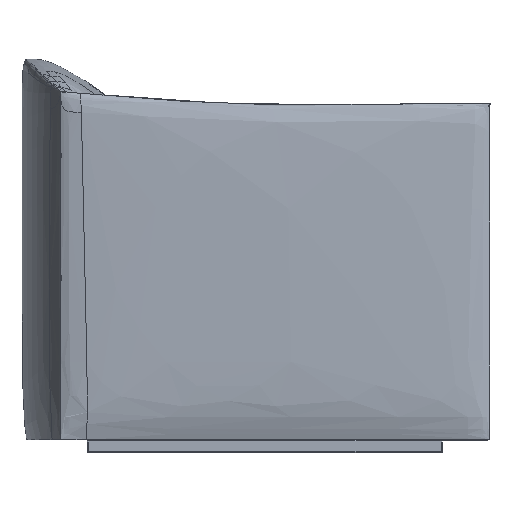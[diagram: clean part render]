
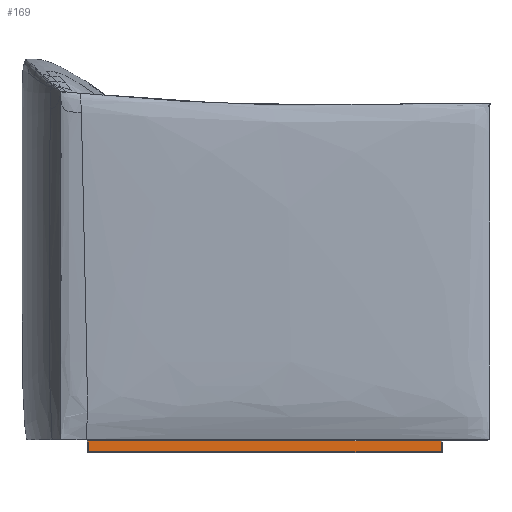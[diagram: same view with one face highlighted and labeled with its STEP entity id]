
A CAD part, left-side view. The second image highlights one B-rep face of the part: STEP entity #169.
In plain terms, the highlighted planar face has unit normal (-1, 0, 0).
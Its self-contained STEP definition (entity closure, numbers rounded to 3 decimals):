
#169=ADVANCED_FACE('',(#377),#3141,.T.);
#377=FACE_OUTER_BOUND('',#585,.T.);
#585=EDGE_LOOP('',(#811,#812,#813,#814));
#811=ORIENTED_EDGE('',*,*,#1799,.T.);
#812=ORIENTED_EDGE('',*,*,#1802,.F.);
#813=ORIENTED_EDGE('',*,*,#1801,.F.);
#814=ORIENTED_EDGE('',*,*,#1800,.T.);
#1799=EDGE_CURVE('',#2809,#2810,#2331,.T.);
#1800=EDGE_CURVE('',#2811,#2809,#2332,.T.);
#1801=EDGE_CURVE('',#2811,#2812,#2333,.T.);
#1802=EDGE_CURVE('',#2812,#2810,#2334,.T.);
#2331=B_SPLINE_CURVE_WITH_KNOTS('',1,(#3618,#3619),.UNSPECIFIED.,.F.,.F.,
(2,2),(2.,604.403),.UNSPECIFIED.);
#2332=B_SPLINE_CURVE_WITH_KNOTS('',1,(#3620,#3621),.UNSPECIFIED.,.F.,.F.,
(2,2),(2.,111.3),.UNSPECIFIED.);
#2333=B_SPLINE_CURVE_WITH_KNOTS('',1,(#3622,#3623),.UNSPECIFIED.,.F.,.F.,
(2,2),(2.,604.403),.UNSPECIFIED.);
#2334=B_SPLINE_CURVE_WITH_KNOTS('',1,(#3624,#3625),.UNSPECIFIED.,.F.,.F.,
(2,2),(2.,111.3),.UNSPECIFIED.);
#2809=VERTEX_POINT('',#3582);
#2810=VERTEX_POINT('',#3583);
#2811=VERTEX_POINT('',#3584);
#2812=VERTEX_POINT('',#3585);
#3141=PLANE('',#3275);
#3275=AXIS2_PLACEMENT_3D('',#3408,#3341,$);
#3341=DIRECTION('',(-1.,0.,0.));
#3408=CARTESIAN_POINT('',(50750.444,-273.597,2.));
#3582=CARTESIAN_POINT('',(50750.444,-273.597,2.));
#3583=CARTESIAN_POINT('',(50750.444,-876.,2.));
#3584=CARTESIAN_POINT('',(50750.444,-273.597,20.3));
#3585=CARTESIAN_POINT('',(50750.444,-876.,20.3));
#3618=CARTESIAN_POINT('',(50750.444,-273.597,2.));
#3619=CARTESIAN_POINT('',(50750.444,-876.,2.));
#3620=CARTESIAN_POINT('',(50750.444,-273.597,20.3));
#3621=CARTESIAN_POINT('',(50750.444,-273.597,2.));
#3622=CARTESIAN_POINT('',(50750.444,-273.597,20.3));
#3623=CARTESIAN_POINT('',(50750.444,-876.,20.3));
#3624=CARTESIAN_POINT('',(50750.444,-876.,20.3));
#3625=CARTESIAN_POINT('',(50750.444,-876.,2.));
